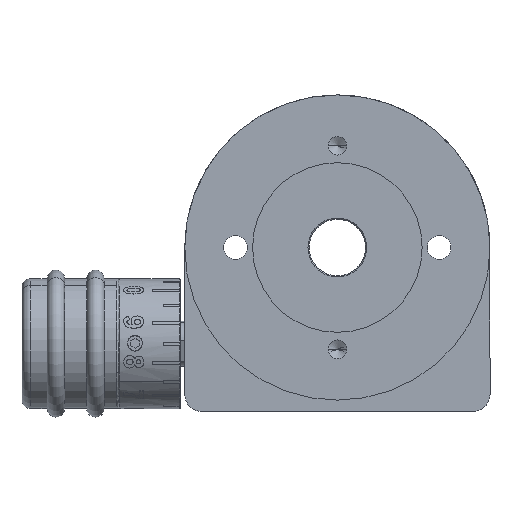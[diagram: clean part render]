
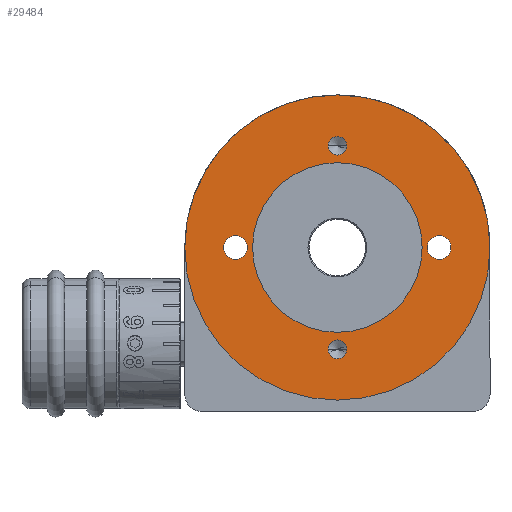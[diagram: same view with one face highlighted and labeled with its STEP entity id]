
A CAD part, front view. The second image highlights one B-rep face of the part: STEP entity #29484.
In plain terms, the highlighted planar face has unit normal (0, -1, 0).
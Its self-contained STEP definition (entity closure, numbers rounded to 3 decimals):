
#20 = DIRECTION ( 'NONE',  ( 0., 1., 0. ) ) ;
#121 = CARTESIAN_POINT ( 'NONE',  ( -1.65, 0., 18. ) ) ;
#214 = CIRCLE ( 'NONE', #1696, 1.65 ) ;
#239 = ORIENTED_EDGE ( 'NONE', *, *, #14037, .F. ) ;
#408 = CARTESIAN_POINT ( 'NONE',  ( 0., 0., -18. ) ) ;
#1696 = AXIS2_PLACEMENT_3D ( 'NONE', #408, #19840, #3196 ) ;
#1709 = VERTEX_POINT ( 'NONE', #121 ) ;
#1916 = EDGE_CURVE ( 'NONE', #26885, #30043, #36007, .T. ) ;
#2285 = EDGE_CURVE ( 'NONE', #29335, #1709, #26927, .T. ) ;
#2533 = CARTESIAN_POINT ( 'NONE',  ( 18., 0., 0. ) ) ;
#2687 = ORIENTED_EDGE ( 'NONE', *, *, #21386, .F. ) ;
#2935 = CARTESIAN_POINT ( 'NONE',  ( 20.1, 0., 0. ) ) ;
#2952 = AXIS2_PLACEMENT_3D ( 'NONE', #16643, #20, #19455 ) ;
#3196 = DIRECTION ( 'NONE',  ( -1., 0., 0. ) ) ;
#3374 = AXIS2_PLACEMENT_3D ( 'NONE', #27016, #10374, #29797 ) ;
#3423 = ORIENTED_EDGE ( 'NONE', *, *, #2285, .F. ) ;
#3538 = AXIS2_PLACEMENT_3D ( 'NONE', #22512, #5879, #25306 ) ;
#5346 = DIRECTION ( 'NONE',  ( 1., 0., 0. ) ) ;
#5464 = AXIS2_PLACEMENT_3D ( 'NONE', #15215, #34639, #18010 ) ;
#5879 = DIRECTION ( 'NONE',  ( 0., 1., 0. ) ) ;
#6850 = CIRCLE ( 'NONE', #2952, 27. ) ;
#7109 = CARTESIAN_POINT ( 'NONE',  ( -1.65, 0., -18. ) ) ;
#7327 = FACE_OUTER_BOUND ( 'NONE', #11243, .T. ) ;
#7525 = EDGE_CURVE ( 'NONE', #33367, #20962, #28907, .T. ) ;
#7574 = EDGE_CURVE ( 'NONE', #27670, #22794, #214, .T. ) ;
#9019 = CARTESIAN_POINT ( 'NONE',  ( 0., 0., 0. ) ) ;
#9199 = CARTESIAN_POINT ( 'NONE',  ( 0., 0., 18. ) ) ;
#9217 = EDGE_LOOP ( 'NONE', ( #25460, #10443 ) ) ;
#9542 = ORIENTED_EDGE ( 'NONE', *, *, #26987, .T. ) ;
#10097 = CARTESIAN_POINT ( 'NONE',  ( -15.9, 0., 0. ) ) ;
#10144 = CARTESIAN_POINT ( 'NONE',  ( 0., 0., 18. ) ) ;
#10193 = CARTESIAN_POINT ( 'NONE',  ( 0., 0., 0. ) ) ;
#10355 = CARTESIAN_POINT ( 'NONE',  ( 27., 0., 0. ) ) ;
#10374 = DIRECTION ( 'NONE',  ( 0., 1., 0. ) ) ;
#10443 = ORIENTED_EDGE ( 'NONE', *, *, #7574, .F. ) ;
#11243 = EDGE_LOOP ( 'NONE', ( #34937, #25399 ) ) ;
#11271 = EDGE_CURVE ( 'NONE', #22794, #27670, #28360, .T. ) ;
#11803 = DIRECTION ( 'NONE',  ( 0., 1., 0. ) ) ;
#11853 = CIRCLE ( 'NONE', #33848, 15. ) ;
#11896 = ORIENTED_EDGE ( 'NONE', *, *, #33656, .T. ) ;
#11988 = DIRECTION ( 'NONE',  ( -1., 0., 0. ) ) ;
#12645 = EDGE_CURVE ( 'NONE', #26381, #28100, #32243, .T. ) ;
#12946 = DIRECTION ( 'NONE',  ( -1., 0., 0. ) ) ;
#12988 = DIRECTION ( 'NONE',  ( -1., 0., 0. ) ) ;
#13286 = CARTESIAN_POINT ( 'NONE',  ( 1.65, 0., -18. ) ) ;
#14037 = EDGE_CURVE ( 'NONE', #1709, #29335, #27456, .T. ) ;
#14090 = DIRECTION ( 'NONE',  ( 0., 1., 0. ) ) ;
#14642 = VERTEX_POINT ( 'NONE', #26841 ) ;
#14655 = CARTESIAN_POINT ( 'NONE',  ( 0., 0., 0. ) ) ;
#14701 = FACE_BOUND ( 'NONE', #23805, .T. ) ;
#15215 = CARTESIAN_POINT ( 'NONE',  ( 0., 0., -18. ) ) ;
#15342 = DIRECTION ( 'NONE',  ( 0., 1., 0. ) ) ;
#15542 = EDGE_CURVE ( 'NONE', #20962, #33367, #6850, .T. ) ;
#16415 = FACE_BOUND ( 'NONE', #23612, .T. ) ;
#16496 = CARTESIAN_POINT ( 'NONE',  ( -20.1, 0., 0. ) ) ;
#16643 = CARTESIAN_POINT ( 'NONE',  ( 0., 0., 0. ) ) ;
#17445 = DIRECTION ( 'NONE',  ( -1., 0., 0. ) ) ;
#17579 = CARTESIAN_POINT ( 'NONE',  ( 15., 0., 0. ) ) ;
#18003 = CIRCLE ( 'NONE', #19226, 2.1 ) ;
#18010 = DIRECTION ( 'NONE',  ( -1., 0., 0. ) ) ;
#18617 = ORIENTED_EDGE ( 'NONE', *, *, #1916, .F. ) ;
#19109 = CARTESIAN_POINT ( 'NONE',  ( 1.65, 0., 18. ) ) ;
#19226 = AXIS2_PLACEMENT_3D ( 'NONE', #30734, #14090, #33505 ) ;
#19455 = DIRECTION ( 'NONE',  ( 1., 0., 0. ) ) ;
#19840 = DIRECTION ( 'NONE',  ( 0., -1., 0. ) ) ;
#20962 = VERTEX_POINT ( 'NONE', #30143 ) ;
#21085 = VERTEX_POINT ( 'NONE', #2935 ) ;
#21255 = AXIS2_PLACEMENT_3D ( 'NONE', #9019, #11803, #31250 ) ;
#21386 = EDGE_CURVE ( 'NONE', #30043, #26885, #11853, .T. ) ;
#21552 = EDGE_CURVE ( 'NONE', #21085, #14642, #31420, .T. ) ;
#21970 = DIRECTION ( 'NONE',  ( 0., 1., 0. ) ) ;
#22073 = FACE_BOUND ( 'NONE', #34559, .T. ) ;
#22512 = CARTESIAN_POINT ( 'NONE',  ( 0., 0., 0. ) ) ;
#22794 = VERTEX_POINT ( 'NONE', #7109 ) ;
#22960 = FACE_BOUND ( 'NONE', #27874, .T. ) ;
#23612 = EDGE_LOOP ( 'NONE', ( #18617, #2687 ) ) ;
#23805 = EDGE_LOOP ( 'NONE', ( #11896, #27348 ) ) ;
#25306 = DIRECTION ( 'NONE',  ( 1., 0., 0. ) ) ;
#25399 = ORIENTED_EDGE ( 'NONE', *, *, #7525, .F. ) ;
#25460 = ORIENTED_EDGE ( 'NONE', *, *, #11271, .F. ) ;
#25657 = PLANE ( 'NONE',  #21255 ) ;
#26182 = ORIENTED_EDGE ( 'NONE', *, *, #21552, .T. ) ;
#26381 = VERTEX_POINT ( 'NONE', #16496 ) ;
#26493 = CARTESIAN_POINT ( 'NONE',  ( -15., 0., 0. ) ) ;
#26775 = AXIS2_PLACEMENT_3D ( 'NONE', #9199, #28622, #11988 ) ;
#26841 = CARTESIAN_POINT ( 'NONE',  ( 15.9, 0., 0. ) ) ;
#26885 = VERTEX_POINT ( 'NONE', #26493 ) ;
#26927 = CIRCLE ( 'NONE', #26775, 1.65 ) ;
#26987 = EDGE_CURVE ( 'NONE', #14642, #21085, #35967, .T. ) ;
#27016 = CARTESIAN_POINT ( 'NONE',  ( 18., 0., 0. ) ) ;
#27348 = ORIENTED_EDGE ( 'NONE', *, *, #12645, .T. ) ;
#27415 = AXIS2_PLACEMENT_3D ( 'NONE', #2533, #21970, #5346 ) ;
#27456 = CIRCLE ( 'NONE', #35491, 1.65 ) ;
#27670 = VERTEX_POINT ( 'NONE', #13286 ) ;
#27874 = EDGE_LOOP ( 'NONE', ( #239, #3423 ) ) ;
#28100 = VERTEX_POINT ( 'NONE', #10097 ) ;
#28360 = CIRCLE ( 'NONE', #5464, 1.65 ) ;
#28622 = DIRECTION ( 'NONE',  ( 0., -1., 0. ) ) ;
#28907 = CIRCLE ( 'NONE', #3538, 27. ) ;
#29335 = VERTEX_POINT ( 'NONE', #19109 ) ;
#29465 = FACE_BOUND ( 'NONE', #9217, .T. ) ;
#29484 = ADVANCED_FACE ( 'NONE', ( #16415, #22960, #29465, #22073, #14701, #7327 ), #25657, .F. ) ;
#29570 = DIRECTION ( 'NONE',  ( 0., -1., 0. ) ) ;
#29609 = DIRECTION ( 'NONE',  ( 0., -1., 0. ) ) ;
#29797 = DIRECTION ( 'NONE',  ( 1., 0., 0. ) ) ;
#30043 = VERTEX_POINT ( 'NONE', #17579 ) ;
#30143 = CARTESIAN_POINT ( 'NONE',  ( -27., 0., 0. ) ) ;
#30734 = CARTESIAN_POINT ( 'NONE',  ( -18., 0., 0. ) ) ;
#31198 = AXIS2_PLACEMENT_3D ( 'NONE', #10193, #29609, #12988 ) ;
#31250 = DIRECTION ( 'NONE',  ( 1., 0., 0. ) ) ;
#31420 = CIRCLE ( 'NONE', #3374, 2.1 ) ;
#31980 = CARTESIAN_POINT ( 'NONE',  ( -18., 0., 0. ) ) ;
#32243 = CIRCLE ( 'NONE', #35697, 2.1 ) ;
#33367 = VERTEX_POINT ( 'NONE', #10355 ) ;
#33505 = DIRECTION ( 'NONE',  ( 1., 0., 0. ) ) ;
#33656 = EDGE_CURVE ( 'NONE', #28100, #26381, #18003, .T. ) ;
#33848 = AXIS2_PLACEMENT_3D ( 'NONE', #14655, #34058, #17445 ) ;
#34058 = DIRECTION ( 'NONE',  ( 0., -1., 0. ) ) ;
#34559 = EDGE_LOOP ( 'NONE', ( #26182, #9542 ) ) ;
#34639 = DIRECTION ( 'NONE',  ( 0., -1., 0. ) ) ;
#34763 = DIRECTION ( 'NONE',  ( 1., 0., 0. ) ) ;
#34937 = ORIENTED_EDGE ( 'NONE', *, *, #15542, .F. ) ;
#35491 = AXIS2_PLACEMENT_3D ( 'NONE', #10144, #29570, #12946 ) ;
#35697 = AXIS2_PLACEMENT_3D ( 'NONE', #31980, #15342, #34763 ) ;
#35967 = CIRCLE ( 'NONE', #27415, 2.1 ) ;
#36007 = CIRCLE ( 'NONE', #31198, 15. ) ;
